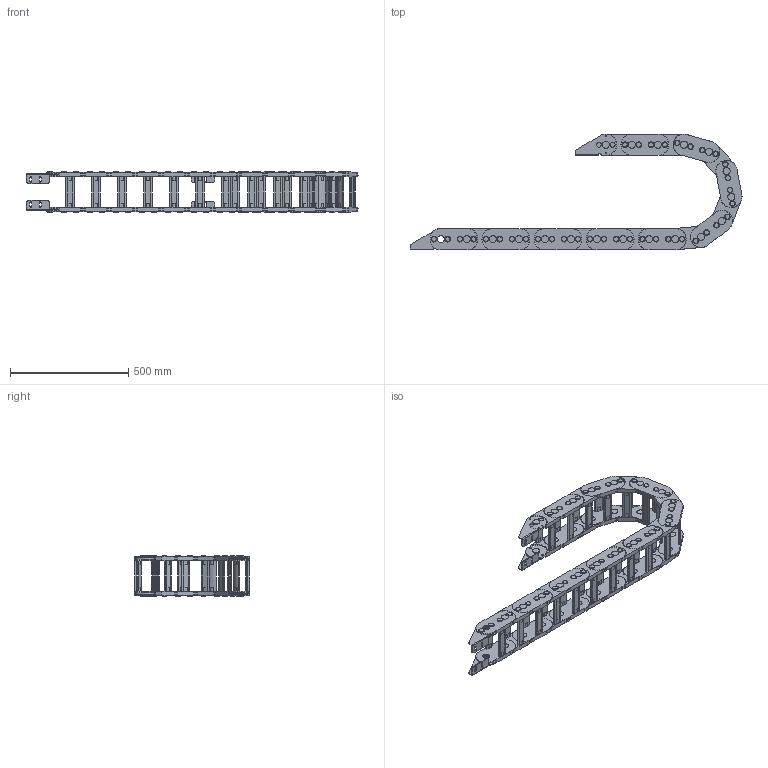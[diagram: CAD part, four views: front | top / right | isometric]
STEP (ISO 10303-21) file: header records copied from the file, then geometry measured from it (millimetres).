
FILE_DESCRIPTION((''),'2;1');
FILE_NAME('GD-65-R200_ASM','2022-07-07T09:08:44',('admin'),(''),'CREO PARAMETRIC BY PTC INC, 2021164','CREO PARAMETRIC BY PTC INC, 2021164','');
FILE_SCHEMA(('CONFIG_CONTROL_DESIGN','GEOMETRIC_VALIDATION_PROPERTIES_MIM'));
Length unit declared in the file: millimetre
Products named in the file (5): 65-R150; 65-R150-1; TLT-1; TLT-2; GD-65-R200_ASM
Assembly tree (20 placements, depth 2):
  GD-65-R200_ASM
    65-R150  x9
    65-R150-1  x9
    TLT-1
    TLT-2
Bounding box: 1402 x 488.59 x 170.5 mm (x, y, z)
Volume: 8269713.9 mm3; surface area: 2500207.6 mm2
Topology: 76 solids, 76 shells, 2332 faces, 6102 edges, 4146 vertices
Faces by surface type: cylinder 1116, plane 1036, cone 180
Entity records: 16191 total; most frequent: DIRECTION 2486, CARTESIAN_POINT 2388, ORIENTED_EDGE 2220, EDGE_CURVE 1110, AXIS2_PLACEMENT_3D 951, VERTEX_POINT 754, PRESENTATION_STYLE_ASSIGNMENT 634, STYLED_ITEM 633
